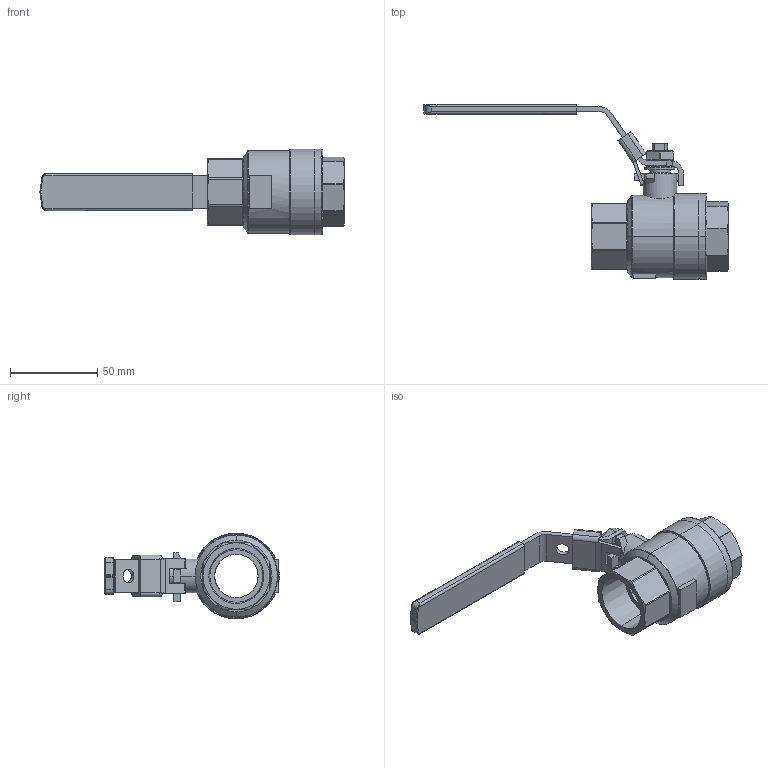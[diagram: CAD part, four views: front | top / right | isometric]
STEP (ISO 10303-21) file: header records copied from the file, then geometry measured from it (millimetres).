
FILE_DESCRIPTION (( 'STEP AP203' ), '1' );
FILE_NAME ('sgf-8-w-handle.STEP', '2022-03-15T21:00:57', ( '' ), ( '' ), 'SwSTEP 2.0', 'SolidWorks 2021', '' );
FILE_SCHEMA (( 'CONFIG_CONTROL_DESIGN' ));
Length unit declared in the file: inch
Products named in the file (4): sgf8-nut; SGF-8_open; sgf-8-w-handle; SGF-8-HANDLE
Assembly tree (3 placements, depth 2):
  sgf-8-w-handle
    SGF-8_open
    SGF-8-HANDLE
    sgf8-nut
Bounding box: 174.62 x 100.05 x 49.17 mm (x, y, z)
Volume: 91161.2 mm3; surface area: 43327.7 mm2
Topology: 8 solids, 10 shells, 343 faces, 861 edges, 541 vertices
Faces by surface type: plane 140, cylinder 123, torus 34, cone 33, sphere 7, bspline 6
Entity records: 11223 total; most frequent: CARTESIAN_POINT 2539, DIRECTION 1797, ORIENTED_EDGE 1714, EDGE_CURVE 857, AXIS2_PLACEMENT_3D 699, VERTEX_POINT 541, LINE 399, VECTOR 399
